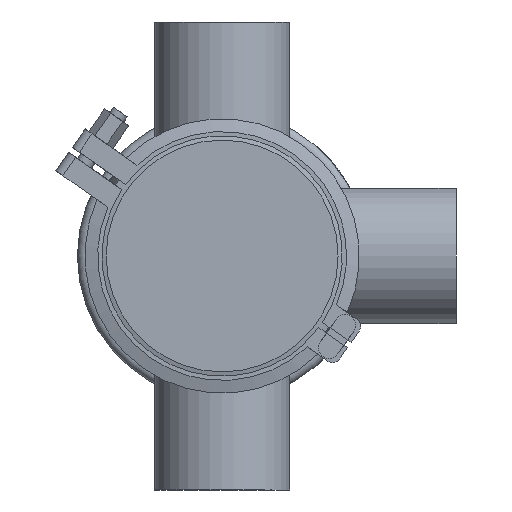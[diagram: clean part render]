
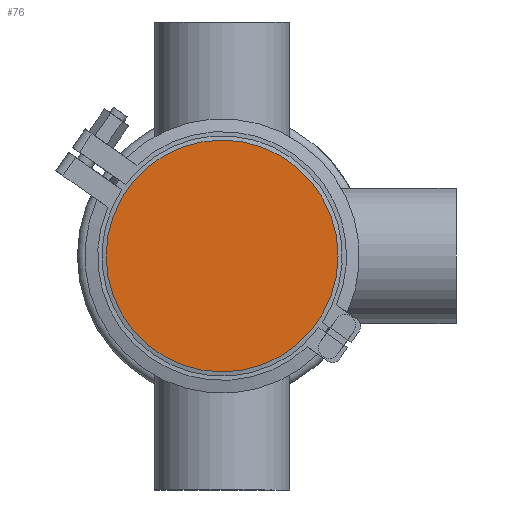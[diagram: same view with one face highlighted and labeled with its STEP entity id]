
A CAD part, front view. The second image highlights one B-rep face of the part: STEP entity #76.
In plain terms, the highlighted planar face has unit normal (0, -1, 0).
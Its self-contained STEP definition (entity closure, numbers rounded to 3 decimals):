
#76 = ADVANCED_FACE ( 'NONE', ( #11776 ), #694, .T. ) ;
#694 = PLANE ( 'NONE',  #15314 ) ;
#945 = DIRECTION ( 'NONE',  ( 0., 1., 0. ) ) ;
#1762 = CARTESIAN_POINT ( 'NONE',  ( 0., 0., 54.5 ) ) ;
#1913 = CARTESIAN_POINT ( 'NONE',  ( -54.5, 0., 0. ) ) ;
#2201 = EDGE_LOOP ( 'NONE', ( #11041 ) ) ;
#3226 = CIRCLE ( 'NONE', #8073, 54.5 ) ;
#8073 = AXIS2_PLACEMENT_3D ( 'NONE', #19147, #945, #14150 ) ;
#10770 = DIRECTION ( 'NONE',  ( 0., -1., 0. ) ) ;
#11041 = ORIENTED_EDGE ( 'NONE', *, *, #20817, .F. ) ;
#11776 = FACE_OUTER_BOUND ( 'NONE', #2201, .T. ) ;
#14150 = DIRECTION ( 'NONE',  ( 0., 0., 1. ) ) ;
#15132 = DIRECTION ( 'NONE',  ( 0., 0., -1. ) ) ;
#15314 = AXIS2_PLACEMENT_3D ( 'NONE', #1913, #10770, #15132 ) ;
#18053 = VERTEX_POINT ( 'NONE', #1762 ) ;
#19147 = CARTESIAN_POINT ( 'NONE',  ( 0., 0., 0. ) ) ;
#20817 = EDGE_CURVE ( 'NONE', #18053, #18053, #3226, .T. ) ;
